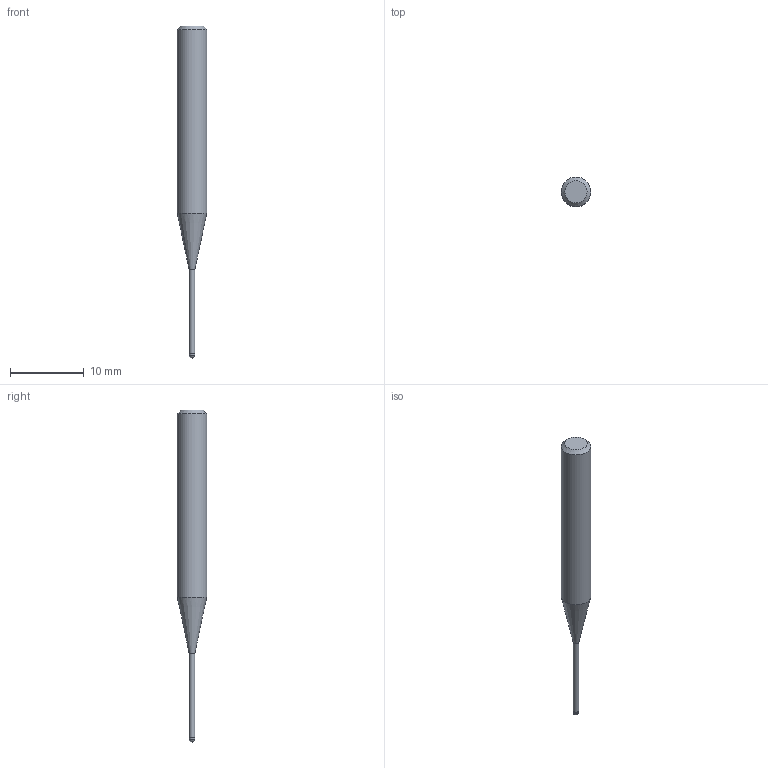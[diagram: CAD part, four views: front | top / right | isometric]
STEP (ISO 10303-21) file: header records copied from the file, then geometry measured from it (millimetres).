
FILE_DESCRIPTION((''),'2;1');
FILE_NAME('C:\Users\nsx150\AppData\Local\Temp\Mastercam 2021\ARV7HD45SN\TEMP.step','2023-06-13T16:35:01',(''),(''),'STEP Write','Mastercam 2021 ... CNC Software, Inc.','');
FILE_SCHEMA(('AUTOMOTIVE_DESIGN'));
Length unit declared in the file: millimetre
Products named in the file (1): None
Bounding box: 4 x 4 x 45 mm (x, y, z)
Volume: 362 mm3; surface area: 415.4 mm2
Topology: 2 solids, 2 shells, 9 faces, 14 edges, 8 vertices
Faces by surface type: plane 3, cylinder 3, cone 2, sphere 1
Full cylindrical faces by diameter (mm): 0.76 x1, 0.8 x1, 4 x1
Entity records: 211 total; most frequent: DIRECTION 36, CARTESIAN_POINT 25, AXIS2_PLACEMENT_3D 18, ORIENTED_EDGE 14, EDGE_LOOP 14, STYLED_ITEM 12, ADVANCED_FACE 9, FACE_BOUND 8
